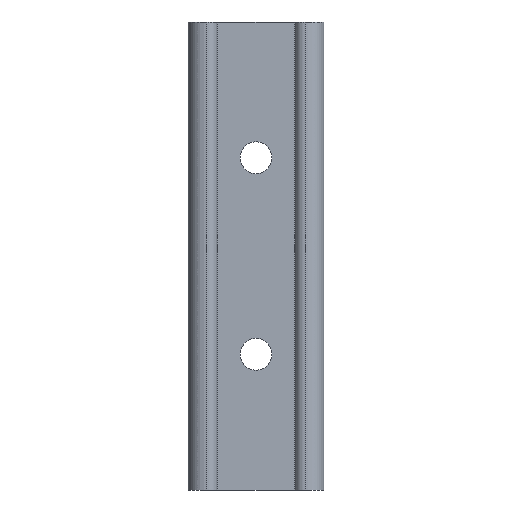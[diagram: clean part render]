
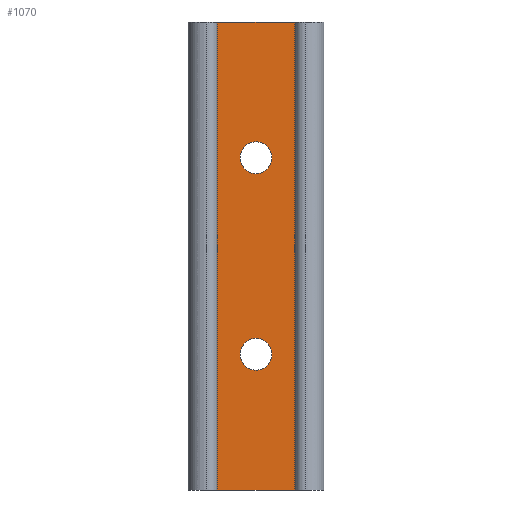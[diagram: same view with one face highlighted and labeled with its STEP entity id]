
A CAD part, left-side view. The second image highlights one B-rep face of the part: STEP entity #1070.
In plain terms, the highlighted planar face has unit normal (-1, 0, 0).
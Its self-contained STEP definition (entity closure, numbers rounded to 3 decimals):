
#6 = FACE_BOUND ( 'NONE', #472, .T. ) ;
#35 = DIRECTION ( 'NONE',  ( 0., 0., -1. ) ) ;
#52 = AXIS2_PLACEMENT_3D ( 'NONE', #385, #208, #1022 ) ;
#69 = VECTOR ( 'NONE', #302, 1000. ) ;
#71 = ORIENTED_EDGE ( 'NONE', *, *, #173, .T. ) ;
#73 = AXIS2_PLACEMENT_3D ( 'NONE', #1135, #595, #404 ) ;
#118 = EDGE_CURVE ( 'NONE', #709, #386, #888, .T. ) ;
#136 = CIRCLE ( 'NONE', #73, 3.4 ) ;
#139 = CARTESIAN_POINT ( 'NONE',  ( -4., 0., 21. ) ) ;
#152 = EDGE_CURVE ( 'NONE', #1010, #423, #306, .T. ) ;
#157 = VERTEX_POINT ( 'NONE', #205 ) ;
#173 = EDGE_CURVE ( 'NONE', #834, #441, #950, .T. ) ;
#177 = CARTESIAN_POINT ( 'NONE',  ( -4., 0., -24.4 ) ) ;
#202 = CARTESIAN_POINT ( 'NONE',  ( -4., -9.5, 50. ) ) ;
#205 = CARTESIAN_POINT ( 'NONE',  ( -4., 0., 17.6 ) ) ;
#208 = DIRECTION ( 'NONE',  ( 1., 0., 0. ) ) ;
#215 = EDGE_CURVE ( 'NONE', #441, #834, #248, .T. ) ;
#239 = EDGE_CURVE ( 'NONE', #471, #157, #258, .T. ) ;
#244 = CARTESIAN_POINT ( 'NONE',  ( -4., 0., -17.6 ) ) ;
#248 = CIRCLE ( 'NONE', #716, 3.4 ) ;
#258 = CIRCLE ( 'NONE', #779, 3.4 ) ;
#283 = VECTOR ( 'NONE', #761, 1000. ) ;
#286 = CARTESIAN_POINT ( 'NONE',  ( -4., 9.5, 50. ) ) ;
#297 = CARTESIAN_POINT ( 'NONE',  ( -4., 0., -21. ) ) ;
#300 = DIRECTION ( 'NONE',  ( 1., 0., 0. ) ) ;
#302 = DIRECTION ( 'NONE',  ( 0., 0., -1. ) ) ;
#306 = LINE ( 'NONE', #367, #69 ) ;
#353 = FACE_OUTER_BOUND ( 'NONE', #1134, .T. ) ;
#367 = CARTESIAN_POINT ( 'NONE',  ( -4., -9.5, 50. ) ) ;
#369 = LINE ( 'NONE', #747, #283 ) ;
#380 = CARTESIAN_POINT ( 'NONE',  ( -4., 9.5, 50. ) ) ;
#385 = CARTESIAN_POINT ( 'NONE',  ( -4., 0., -21. ) ) ;
#386 = VERTEX_POINT ( 'NONE', #409 ) ;
#404 = DIRECTION ( 'NONE',  ( 0., 1., 0. ) ) ;
#409 = CARTESIAN_POINT ( 'NONE',  ( -4., 9.5, -50. ) ) ;
#423 = VERTEX_POINT ( 'NONE', #425 ) ;
#425 = CARTESIAN_POINT ( 'NONE',  ( -4., -9.5, -50. ) ) ;
#441 = VERTEX_POINT ( 'NONE', #177 ) ;
#460 = PLANE ( 'NONE',  #490 ) ;
#471 = VERTEX_POINT ( 'NONE', #530 ) ;
#472 = EDGE_LOOP ( 'NONE', ( #1083, #795 ) ) ;
#490 = AXIS2_PLACEMENT_3D ( 'NONE', #286, #300, #1011 ) ;
#530 = CARTESIAN_POINT ( 'NONE',  ( -4., 0., 24.4 ) ) ;
#576 = DIRECTION ( 'NONE',  ( 0., -1., 0. ) ) ;
#581 = DIRECTION ( 'NONE',  ( 0., 1., 0. ) ) ;
#595 = DIRECTION ( 'NONE',  ( 1., 0., 0. ) ) ;
#709 = VERTEX_POINT ( 'NONE', #749 ) ;
#716 = AXIS2_PLACEMENT_3D ( 'NONE', #297, #1016, #581 ) ;
#722 = VECTOR ( 'NONE', #35, 1000. ) ;
#747 = CARTESIAN_POINT ( 'NONE',  ( -4., 9.5, 50. ) ) ;
#749 = CARTESIAN_POINT ( 'NONE',  ( -4., 9.5, 50. ) ) ;
#761 = DIRECTION ( 'NONE',  ( 0., -1., 0. ) ) ;
#770 = FACE_BOUND ( 'NONE', #964, .T. ) ;
#776 = EDGE_CURVE ( 'NONE', #386, #423, #902, .T. ) ;
#779 = AXIS2_PLACEMENT_3D ( 'NONE', #139, #1137, #942 ) ;
#790 = EDGE_CURVE ( 'NONE', #157, #471, #136, .T. ) ;
#795 = ORIENTED_EDGE ( 'NONE', *, *, #239, .T. ) ;
#834 = VERTEX_POINT ( 'NONE', #244 ) ;
#888 = LINE ( 'NONE', #380, #722 ) ;
#902 = LINE ( 'NONE', #1118, #1064 ) ;
#942 = DIRECTION ( 'NONE',  ( 0., 1., 0. ) ) ;
#950 = CIRCLE ( 'NONE', #52, 3.4 ) ;
#964 = EDGE_LOOP ( 'NONE', ( #1015, #71 ) ) ;
#966 = ORIENTED_EDGE ( 'NONE', *, *, #776, .T. ) ;
#993 = ORIENTED_EDGE ( 'NONE', *, *, #152, .F. ) ;
#1010 = VERTEX_POINT ( 'NONE', #202 ) ;
#1011 = DIRECTION ( 'NONE',  ( 0., 1., 0. ) ) ;
#1015 = ORIENTED_EDGE ( 'NONE', *, *, #215, .T. ) ;
#1016 = DIRECTION ( 'NONE',  ( 1., 0., 0. ) ) ;
#1022 = DIRECTION ( 'NONE',  ( 0., 1., 0. ) ) ;
#1064 = VECTOR ( 'NONE', #576, 1000. ) ;
#1070 = ADVANCED_FACE ( 'NONE', ( #6, #770, #353 ), #460, .F. ) ;
#1083 = ORIENTED_EDGE ( 'NONE', *, *, #790, .T. ) ;
#1100 = ORIENTED_EDGE ( 'NONE', *, *, #118, .T. ) ;
#1113 = EDGE_CURVE ( 'NONE', #709, #1010, #369, .T. ) ;
#1118 = CARTESIAN_POINT ( 'NONE',  ( -4., 9.5, -50. ) ) ;
#1134 = EDGE_LOOP ( 'NONE', ( #966, #993, #1156, #1100 ) ) ;
#1135 = CARTESIAN_POINT ( 'NONE',  ( -4., 0., 21. ) ) ;
#1137 = DIRECTION ( 'NONE',  ( 1., 0., 0. ) ) ;
#1156 = ORIENTED_EDGE ( 'NONE', *, *, #1113, .F. ) ;
